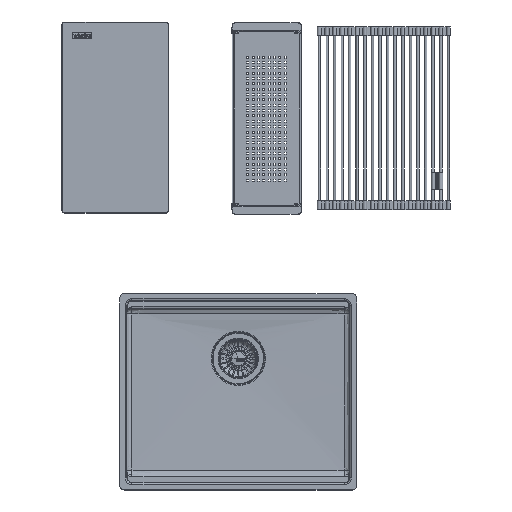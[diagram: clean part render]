
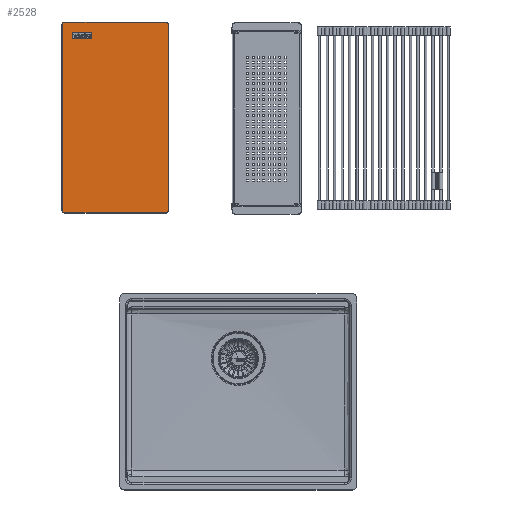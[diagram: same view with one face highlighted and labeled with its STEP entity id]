
A CAD part, top view. The second image highlights one B-rep face of the part: STEP entity #2528.
In plain terms, the highlighted planar face has unit normal (0, 0, 1).
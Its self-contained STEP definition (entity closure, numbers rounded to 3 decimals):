
#403=FACE_BOUND('',#11917,.T.);
#404=FACE_BOUND('',#11918,.T.);
#405=FACE_BOUND('',#11919,.T.);
#2528=ADVANCED_FACE('',(#7179,#403,#404,#405),#81562,.T.);
#7179=FACE_OUTER_BOUND('',#11916,.T.);
#11916=EDGE_LOOP('',(#24240,#24241,#24242,#24243,#24244,#24245,#24246,#24247));
#11917=EDGE_LOOP('',(#24248,#24249,#24250,#24251));
#11918=EDGE_LOOP('',(#24252,#24253,#24254,#24255));
#11919=EDGE_LOOP('',(#24256,#24257,#24258,#24259));
#24240=ORIENTED_EDGE('',*,*,#45865,.T.);
#24241=ORIENTED_EDGE('',*,*,#45821,.T.);
#24242=ORIENTED_EDGE('',*,*,#45880,.T.);
#24243=ORIENTED_EDGE('',*,*,#45822,.T.);
#24244=ORIENTED_EDGE('',*,*,#45876,.T.);
#24245=ORIENTED_EDGE('',*,*,#45823,.T.);
#24246=ORIENTED_EDGE('',*,*,#45870,.T.);
#24247=ORIENTED_EDGE('',*,*,#45824,.T.);
#24248=ORIENTED_EDGE('',*,*,#45510,.T.);
#24249=ORIENTED_EDGE('',*,*,#45506,.T.);
#24250=ORIENTED_EDGE('',*,*,#45516,.T.);
#24251=ORIENTED_EDGE('',*,*,#45513,.T.);
#24252=ORIENTED_EDGE('',*,*,#45642,.T.);
#24253=ORIENTED_EDGE('',*,*,#45638,.T.);
#24254=ORIENTED_EDGE('',*,*,#45648,.T.);
#24255=ORIENTED_EDGE('',*,*,#45645,.T.);
#24256=ORIENTED_EDGE('',*,*,#45795,.T.);
#24257=ORIENTED_EDGE('',*,*,#45791,.T.);
#24258=ORIENTED_EDGE('',*,*,#45801,.T.);
#24259=ORIENTED_EDGE('',*,*,#45798,.T.);
#45506=EDGE_CURVE('',#74274,#74275,#56681,.T.);
#45510=EDGE_CURVE('',#74278,#74274,#56685,.T.);
#45513=EDGE_CURVE('',#74280,#74278,#56688,.T.);
#45516=EDGE_CURVE('',#74275,#74280,#56691,.T.);
#45638=EDGE_CURVE('',#74362,#74363,#56813,.T.);
#45642=EDGE_CURVE('',#74366,#74362,#56817,.T.);
#45645=EDGE_CURVE('',#74368,#74366,#56820,.T.);
#45648=EDGE_CURVE('',#74363,#74368,#56823,.T.);
#45791=EDGE_CURVE('',#74464,#74465,#56966,.T.);
#45795=EDGE_CURVE('',#74468,#74464,#56970,.T.);
#45798=EDGE_CURVE('',#74470,#74468,#56973,.T.);
#45801=EDGE_CURVE('',#74465,#74470,#56976,.T.);
#45821=EDGE_CURVE('',#74485,#74486,#56990,.T.);
#45822=EDGE_CURVE('',#74487,#74488,#56991,.T.);
#45823=EDGE_CURVE('',#74489,#74490,#56992,.T.);
#45824=EDGE_CURVE('',#74491,#74484,#56993,.T.);
#45865=EDGE_CURVE('',#74484,#74485,#64648,.T.);
#45870=EDGE_CURVE('',#74490,#74491,#64652,.T.);
#45876=EDGE_CURVE('',#74488,#74489,#64658,.T.);
#45880=EDGE_CURVE('',#74486,#74487,#64661,.T.);
#56681=B_SPLINE_CURVE_WITH_KNOTS('',1,(#152046,#152047),.UNSPECIFIED.,.F.,
 .F.,(2,2),(-13.567,0.),.UNSPECIFIED.);
#56685=B_SPLINE_CURVE_WITH_KNOTS('',1,(#152054,#152055),.UNSPECIFIED.,.F.,
 .F.,(2,2),(-13.65,0.),.UNSPECIFIED.);
#56688=B_SPLINE_CURVE_WITH_KNOTS('',1,(#152060,#152061),.UNSPECIFIED.,.F.,
 .F.,(2,2),(-13.567,0.),.UNSPECIFIED.);
#56691=B_SPLINE_CURVE_WITH_KNOTS('',1,(#152066,#152067),.UNSPECIFIED.,.F.,
 .F.,(2,2),(-13.65,0.),.UNSPECIFIED.);
#56813=B_SPLINE_CURVE_WITH_KNOTS('',1,(#152310,#152311),.UNSPECIFIED.,.F.,
 .F.,(2,2),(-13.567,0.),.UNSPECIFIED.);
#56817=B_SPLINE_CURVE_WITH_KNOTS('',1,(#152318,#152319),.UNSPECIFIED.,.F.,
 .F.,(2,2),(-13.5,0.),.UNSPECIFIED.);
#56820=B_SPLINE_CURVE_WITH_KNOTS('',1,(#152324,#152325),.UNSPECIFIED.,.F.,
 .F.,(2,2),(-13.567,0.),.UNSPECIFIED.);
#56823=B_SPLINE_CURVE_WITH_KNOTS('',1,(#152330,#152331),.UNSPECIFIED.,.F.,
 .F.,(2,2),(-13.5,0.),.UNSPECIFIED.);
#56966=B_SPLINE_CURVE_WITH_KNOTS('',1,(#152616,#152617),.UNSPECIFIED.,.F.,
 .F.,(2,2),(-13.567,0.),.UNSPECIFIED.);
#56970=B_SPLINE_CURVE_WITH_KNOTS('',1,(#152624,#152625),.UNSPECIFIED.,.F.,
 .F.,(2,2),(-13.65,0.),.UNSPECIFIED.);
#56973=B_SPLINE_CURVE_WITH_KNOTS('',1,(#152630,#152631),.UNSPECIFIED.,.F.,
 .F.,(2,2),(-13.567,0.),.UNSPECIFIED.);
#56976=B_SPLINE_CURVE_WITH_KNOTS('',1,(#152636,#152637),.UNSPECIFIED.,.F.,
 .F.,(2,2),(-13.65,0.),.UNSPECIFIED.);
#56990=B_SPLINE_CURVE_WITH_KNOTS('',1,(#152682,#152683),.UNSPECIFIED.,.F.,
 .F.,(2,2),(0.,414.),.UNSPECIFIED.);
#56991=B_SPLINE_CURVE_WITH_KNOTS('',1,(#152684,#152685),.UNSPECIFIED.,.F.,
 .F.,(2,2),(0.,226.),.UNSPECIFIED.);
#56992=B_SPLINE_CURVE_WITH_KNOTS('',1,(#152686,#152687),.UNSPECIFIED.,.F.,
 .F.,(2,2),(0.,414.),.UNSPECIFIED.);
#56993=B_SPLINE_CURVE_WITH_KNOTS('',1,(#152688,#152689),.UNSPECIFIED.,.F.,
 .F.,(2,2),(0.,226.),.UNSPECIFIED.);
#64648=TRIMMED_CURVE($,#68957,(#152794),(#152795),.T.,.CARTESIAN.);
#64652=TRIMMED_CURVE($,#68961,(#152808),(#152809),.T.,.CARTESIAN.);
#64658=TRIMMED_CURVE($,#68967,(#152826),(#152827),.T.,.CARTESIAN.);
#64661=TRIMMED_CURVE($,#68970,(#152837),(#152838),.T.,.CARTESIAN.);
#68957=CIRCLE('',#88810,6.);
#68961=CIRCLE('',#88814,6.);
#68967=CIRCLE('',#88820,6.);
#68970=CIRCLE('',#88823,6.);
#74274=VERTEX_POINT('',#151510);
#74275=VERTEX_POINT('',#151511);
#74278=VERTEX_POINT('',#151514);
#74280=VERTEX_POINT('',#151516);
#74362=VERTEX_POINT('',#151598);
#74363=VERTEX_POINT('',#151599);
#74366=VERTEX_POINT('',#151602);
#74368=VERTEX_POINT('',#151604);
#74464=VERTEX_POINT('',#151700);
#74465=VERTEX_POINT('',#151701);
#74468=VERTEX_POINT('',#151704);
#74470=VERTEX_POINT('',#151706);
#74484=VERTEX_POINT('',#151720);
#74485=VERTEX_POINT('',#151721);
#74486=VERTEX_POINT('',#151722);
#74487=VERTEX_POINT('',#151723);
#74488=VERTEX_POINT('',#151724);
#74489=VERTEX_POINT('',#151725);
#74490=VERTEX_POINT('',#151726);
#74491=VERTEX_POINT('',#151727);
#81562=PLANE('',#88735);
#88735=AXIS2_PLACEMENT_3D('',#150414,#99002,$);
#88810=AXIS2_PLACEMENT_3D($,#152793,#99118,#99119);
#88814=AXIS2_PLACEMENT_3D($,#152807,#99126,#99127);
#88820=AXIS2_PLACEMENT_3D($,#152825,#99138,#99139);
#88823=AXIS2_PLACEMENT_3D($,#152836,#99144,#99145);
#99002=DIRECTION('',(0.,0.,1.));
#99118=DIRECTION('',(0.,0.,1.));
#99119=DIRECTION('',(0.,-1.,0.));
#99126=DIRECTION('',(0.,0.,1.));
#99127=DIRECTION('',(-1.,0.,0.));
#99138=DIRECTION('',(0.,0.,1.));
#99139=DIRECTION('',(0.,1.,0.));
#99144=DIRECTION('',(0.,0.,1.));
#99145=DIRECTION('',(1.,0.,0.));
#150414=CARTESIAN_POINT('',(-142.92,-255.72,0.));
#151510=CARTESIAN_POINT('',(-96.,176.433,0.));
#151511=CARTESIAN_POINT('',(-96.,190.,0.));
#151514=CARTESIAN_POINT('',(-82.35,176.433,0.));
#151516=CARTESIAN_POINT('',(-82.35,190.,0.));
#151598=CARTESIAN_POINT('',(-81.75,176.433,0.));
#151599=CARTESIAN_POINT('',(-81.75,190.,0.));
#151602=CARTESIAN_POINT('',(-68.25,176.433,0.));
#151604=CARTESIAN_POINT('',(-68.25,190.,0.));
#151700=CARTESIAN_POINT('',(-67.65,176.433,0.));
#151701=CARTESIAN_POINT('',(-67.65,190.,0.));
#151704=CARTESIAN_POINT('',(-54.,176.433,0.));
#151706=CARTESIAN_POINT('',(-54.,190.,0.));
#151720=CARTESIAN_POINT('',(113.,-213.,0.));
#151721=CARTESIAN_POINT('',(119.,-207.,0.));
#151722=CARTESIAN_POINT('',(119.,207.,0.));
#151723=CARTESIAN_POINT('',(113.,213.,0.));
#151724=CARTESIAN_POINT('',(-113.,213.,0.));
#151725=CARTESIAN_POINT('',(-119.,207.,0.));
#151726=CARTESIAN_POINT('',(-119.,-207.,0.));
#151727=CARTESIAN_POINT('',(-113.,-213.,0.));
#152046=CARTESIAN_POINT('',(-96.,176.433,0.));
#152047=CARTESIAN_POINT('',(-96.,190.,0.));
#152054=CARTESIAN_POINT('',(-82.35,176.433,0.));
#152055=CARTESIAN_POINT('',(-96.,176.433,0.));
#152060=CARTESIAN_POINT('',(-82.35,190.,0.));
#152061=CARTESIAN_POINT('',(-82.35,176.433,0.));
#152066=CARTESIAN_POINT('',(-96.,190.,0.));
#152067=CARTESIAN_POINT('',(-82.35,190.,0.));
#152310=CARTESIAN_POINT('',(-81.75,176.433,0.));
#152311=CARTESIAN_POINT('',(-81.75,190.,0.));
#152318=CARTESIAN_POINT('',(-68.25,176.433,0.));
#152319=CARTESIAN_POINT('',(-81.75,176.433,0.));
#152324=CARTESIAN_POINT('',(-68.25,190.,0.));
#152325=CARTESIAN_POINT('',(-68.25,176.433,0.));
#152330=CARTESIAN_POINT('',(-81.75,190.,0.));
#152331=CARTESIAN_POINT('',(-68.25,190.,0.));
#152616=CARTESIAN_POINT('',(-67.65,176.433,0.));
#152617=CARTESIAN_POINT('',(-67.65,190.,0.));
#152624=CARTESIAN_POINT('',(-54.,176.433,0.));
#152625=CARTESIAN_POINT('',(-67.65,176.433,0.));
#152630=CARTESIAN_POINT('',(-54.,190.,0.));
#152631=CARTESIAN_POINT('',(-54.,176.433,0.));
#152636=CARTESIAN_POINT('',(-67.65,190.,0.));
#152637=CARTESIAN_POINT('',(-54.,190.,0.));
#152682=CARTESIAN_POINT('',(119.,-207.,0.));
#152683=CARTESIAN_POINT('',(119.,207.,0.));
#152684=CARTESIAN_POINT('',(113.,213.,0.));
#152685=CARTESIAN_POINT('',(-113.,213.,0.));
#152686=CARTESIAN_POINT('',(-119.,207.,0.));
#152687=CARTESIAN_POINT('',(-119.,-207.,0.));
#152688=CARTESIAN_POINT('',(-113.,-213.,0.));
#152689=CARTESIAN_POINT('',(113.,-213.,0.));
#152793=CARTESIAN_POINT('',(113.,-207.,0.));
#152794=CARTESIAN_POINT('',(113.,-213.,0.));
#152795=CARTESIAN_POINT('',(119.,-207.,0.));
#152807=CARTESIAN_POINT('',(-113.,-207.,0.));
#152808=CARTESIAN_POINT('',(-119.,-207.,0.));
#152809=CARTESIAN_POINT('',(-113.,-213.,0.));
#152825=CARTESIAN_POINT('',(-113.,207.,0.));
#152826=CARTESIAN_POINT('',(-113.,213.,0.));
#152827=CARTESIAN_POINT('',(-119.,207.,0.));
#152836=CARTESIAN_POINT('',(113.,207.,0.));
#152837=CARTESIAN_POINT('',(119.,207.,0.));
#152838=CARTESIAN_POINT('',(113.,213.,0.));
